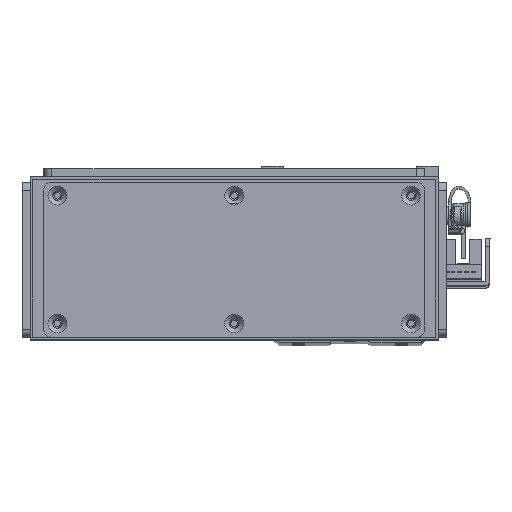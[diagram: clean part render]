
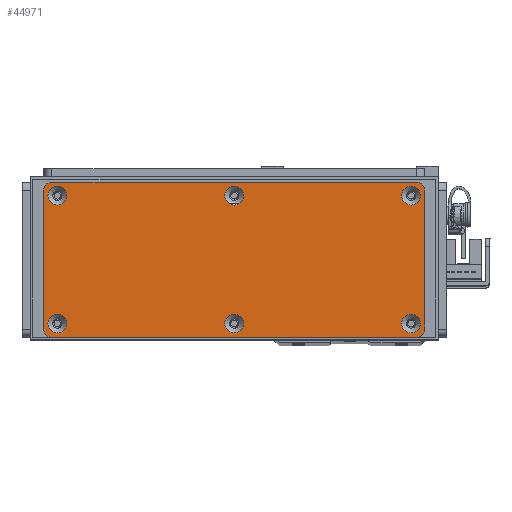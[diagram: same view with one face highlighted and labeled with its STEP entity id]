
A CAD part, top view. The second image highlights one B-rep face of the part: STEP entity #44971.
In plain terms, the highlighted planar face has unit normal (0, 0, 1).
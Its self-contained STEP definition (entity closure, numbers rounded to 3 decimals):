
#1523=FACE_BOUND('',#7833,.T.);
#1524=FACE_BOUND('',#7834,.T.);
#1525=FACE_BOUND('',#7835,.T.);
#1526=FACE_BOUND('',#7836,.T.);
#1527=FACE_BOUND('',#7837,.T.);
#1528=FACE_BOUND('',#7838,.T.);
#3104=PLANE('',#48612);
#5193=FACE_OUTER_BOUND('',#7832,.T.);
#7832=EDGE_LOOP('',(#40632,#40633,#40634,#40635,#40636,#40637,#40638,#40639));
#7833=EDGE_LOOP('',(#40640));
#7834=EDGE_LOOP('',(#40641));
#7835=EDGE_LOOP('',(#40642));
#7836=EDGE_LOOP('',(#40643));
#7837=EDGE_LOOP('',(#40644));
#7838=EDGE_LOOP('',(#40645));
#12672=LINE('',#73797,#17537);
#12675=LINE('',#73805,#17540);
#12678=LINE('',#73813,#17543);
#12681=LINE('',#73820,#17546);
#17537=VECTOR('',#59471,10.);
#17540=VECTOR('',#59480,10.);
#17543=VECTOR('',#59489,10.);
#17546=VECTOR('',#59498,10.);
#18955=CIRCLE('',#48566,3.45);
#18958=CIRCLE('',#48571,3.45);
#18961=CIRCLE('',#48576,3.45);
#18964=CIRCLE('',#48581,3.45);
#18967=CIRCLE('',#48586,3.45);
#18970=CIRCLE('',#48591,3.45);
#18977=CIRCLE('',#48601,3.);
#18978=CIRCLE('',#48604,3.);
#18979=CIRCLE('',#48607,3.);
#18980=CIRCLE('',#48610,3.);
#22861=VERTEX_POINT('',#73713);
#22864=VERTEX_POINT('',#73723);
#22867=VERTEX_POINT('',#73733);
#22870=VERTEX_POINT('',#73743);
#22873=VERTEX_POINT('',#73753);
#22876=VERTEX_POINT('',#73763);
#22887=VERTEX_POINT('',#73790);
#22888=VERTEX_POINT('',#73792);
#22889=VERTEX_POINT('',#73796);
#22890=VERTEX_POINT('',#73800);
#22891=VERTEX_POINT('',#73804);
#22892=VERTEX_POINT('',#73808);
#22893=VERTEX_POINT('',#73812);
#22894=VERTEX_POINT('',#73816);
#28850=EDGE_CURVE('',#22861,#22861,#18955,.T.);
#28855=EDGE_CURVE('',#22864,#22864,#18958,.T.);
#28860=EDGE_CURVE('',#22867,#22867,#18961,.T.);
#28865=EDGE_CURVE('',#22870,#22870,#18964,.T.);
#28870=EDGE_CURVE('',#22873,#22873,#18967,.T.);
#28875=EDGE_CURVE('',#22876,#22876,#18970,.T.);
#28889=EDGE_CURVE('',#22888,#22887,#18977,.T.);
#28891=EDGE_CURVE('',#22889,#22888,#12672,.T.);
#28893=EDGE_CURVE('',#22890,#22889,#18978,.T.);
#28895=EDGE_CURVE('',#22891,#22890,#12675,.T.);
#28897=EDGE_CURVE('',#22892,#22891,#18979,.T.);
#28899=EDGE_CURVE('',#22893,#22892,#12678,.T.);
#28901=EDGE_CURVE('',#22894,#22893,#18980,.T.);
#28903=EDGE_CURVE('',#22887,#22894,#12681,.T.);
#40632=ORIENTED_EDGE('',*,*,#28903,.T.);
#40633=ORIENTED_EDGE('',*,*,#28901,.T.);
#40634=ORIENTED_EDGE('',*,*,#28899,.T.);
#40635=ORIENTED_EDGE('',*,*,#28897,.T.);
#40636=ORIENTED_EDGE('',*,*,#28895,.T.);
#40637=ORIENTED_EDGE('',*,*,#28893,.T.);
#40638=ORIENTED_EDGE('',*,*,#28891,.T.);
#40639=ORIENTED_EDGE('',*,*,#28889,.T.);
#40640=ORIENTED_EDGE('',*,*,#28850,.T.);
#40641=ORIENTED_EDGE('',*,*,#28855,.T.);
#40642=ORIENTED_EDGE('',*,*,#28860,.T.);
#40643=ORIENTED_EDGE('',*,*,#28865,.T.);
#40644=ORIENTED_EDGE('',*,*,#28870,.T.);
#40645=ORIENTED_EDGE('',*,*,#28875,.T.);
#44971=ADVANCED_FACE('',(#5193,#1523,#1524,#1525,#1526,#1527,#1528),#3104,
 .T.);
#48566=AXIS2_PLACEMENT_3D('',#73714,#59379,#59380);
#48571=AXIS2_PLACEMENT_3D('',#73724,#59391,#59392);
#48576=AXIS2_PLACEMENT_3D('',#73734,#59403,#59404);
#48581=AXIS2_PLACEMENT_3D('',#73744,#59415,#59416);
#48586=AXIS2_PLACEMENT_3D('',#73754,#59427,#59428);
#48591=AXIS2_PLACEMENT_3D('',#73764,#59439,#59440);
#48601=AXIS2_PLACEMENT_3D('',#73793,#59466,#59467);
#48604=AXIS2_PLACEMENT_3D('',#73801,#59475,#59476);
#48607=AXIS2_PLACEMENT_3D('',#73809,#59484,#59485);
#48610=AXIS2_PLACEMENT_3D('',#73817,#59493,#59494);
#48612=AXIS2_PLACEMENT_3D('',#73821,#59499,#59500);
#59379=DIRECTION('center_axis',(0.,0.,-1.));
#59380=DIRECTION('ref_axis',(1.,0.,0.));
#59391=DIRECTION('center_axis',(0.,0.,-1.));
#59392=DIRECTION('ref_axis',(1.,0.,0.));
#59403=DIRECTION('center_axis',(0.,0.,-1.));
#59404=DIRECTION('ref_axis',(1.,0.,0.));
#59415=DIRECTION('center_axis',(0.,0.,-1.));
#59416=DIRECTION('ref_axis',(1.,0.,0.));
#59427=DIRECTION('center_axis',(0.,0.,-1.));
#59428=DIRECTION('ref_axis',(1.,0.,0.));
#59439=DIRECTION('center_axis',(0.,0.,-1.));
#59440=DIRECTION('ref_axis',(1.,0.,0.));
#59466=DIRECTION('center_axis',(0.,0.,1.));
#59467=DIRECTION('ref_axis',(0.,1.,0.));
#59471=DIRECTION('',(-1.,0.,0.));
#59475=DIRECTION('center_axis',(0.,0.,1.));
#59476=DIRECTION('ref_axis',(1.,0.,0.));
#59480=DIRECTION('',(0.,1.,0.));
#59484=DIRECTION('center_axis',(0.,0.,1.));
#59485=DIRECTION('ref_axis',(0.,-1.,0.));
#59489=DIRECTION('',(1.,0.,0.));
#59493=DIRECTION('center_axis',(0.,0.,1.));
#59494=DIRECTION('ref_axis',(-1.,0.,0.));
#59498=DIRECTION('',(0.,-1.,0.));
#59499=DIRECTION('center_axis',(0.,0.,1.));
#59500=DIRECTION('ref_axis',(1.,0.,0.));
#73713=CARTESIAN_POINT('',(-3.45,23.5,1.5));
#73714=CARTESIAN_POINT('Origin',(0.,23.5,1.5));
#73723=CARTESIAN_POINT('',(61.55,-23.5,1.5));
#73724=CARTESIAN_POINT('Origin',(65.,-23.5,1.5));
#73733=CARTESIAN_POINT('',(-68.45,23.5,1.5));
#73734=CARTESIAN_POINT('Origin',(-65.,23.5,1.5));
#73743=CARTESIAN_POINT('',(61.55,23.5,1.5));
#73744=CARTESIAN_POINT('Origin',(65.,23.5,1.5));
#73753=CARTESIAN_POINT('',(-68.45,-23.5,1.5));
#73754=CARTESIAN_POINT('Origin',(-65.,-23.5,1.5));
#73763=CARTESIAN_POINT('',(-3.45,-23.5,1.5));
#73764=CARTESIAN_POINT('Origin',(0.,-23.5,1.5));
#73790=CARTESIAN_POINT('',(-70.,25.5,1.5));
#73792=CARTESIAN_POINT('',(-67.,28.5,1.5));
#73793=CARTESIAN_POINT('Origin',(-67.,25.5,1.5));
#73796=CARTESIAN_POINT('',(67.,28.5,1.5));
#73797=CARTESIAN_POINT('',(67.,28.5,1.5));
#73800=CARTESIAN_POINT('',(70.,25.5,1.5));
#73801=CARTESIAN_POINT('Origin',(67.,25.5,1.5));
#73804=CARTESIAN_POINT('',(70.,-25.5,1.5));
#73805=CARTESIAN_POINT('',(70.,-25.5,1.5));
#73808=CARTESIAN_POINT('',(67.,-28.5,1.5));
#73809=CARTESIAN_POINT('Origin',(67.,-25.5,1.5));
#73812=CARTESIAN_POINT('',(-67.,-28.5,1.5));
#73813=CARTESIAN_POINT('',(-67.,-28.5,1.5));
#73816=CARTESIAN_POINT('',(-70.,-25.5,1.5));
#73817=CARTESIAN_POINT('Origin',(-67.,-25.5,1.5));
#73820=CARTESIAN_POINT('',(-70.,25.5,1.5));
#73821=CARTESIAN_POINT('Origin',(0.,0.,
1.5));
